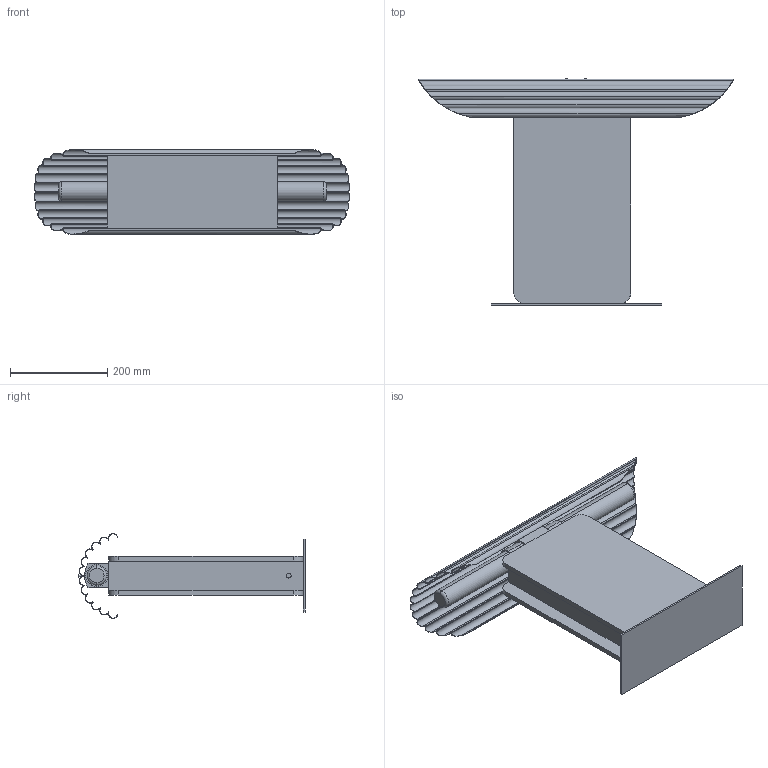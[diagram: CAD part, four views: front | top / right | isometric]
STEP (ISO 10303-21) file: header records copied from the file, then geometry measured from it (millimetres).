
FILE_DESCRIPTION (( 'STEP AP214' ), '1' );
FILE_NAME ('HOLD_S1326.STEP', '2024-09-18T08:31:00', ( '' ), ( '' ), 'SwSTEP 2.0', 'SolidWorks 2018', '' );
FILE_SCHEMA (( 'AUTOMOTIVE_DESIGN' ));
Length unit declared in the file: millimetre
Products named in the file (1): HOLD_S1326
Bounding box: 649.99 x 465.93 x 174.37 mm (x, y, z)
Volume: 7755090 mm3; surface area: 1292362.7 mm2
Topology: 11 solids, 11 shells, 161 faces, 397 edges, 262 vertices
Faces by surface type: plane 83, cylinder 74, torus 4
Entity records: 9018 total; most frequent: CARTESIAN_POINT 3569, ORIENTED_EDGE 794, DIRECTION 653, EDGE_CURVE 397, VERTEX_POINT 262, AXIS2_PLACEMENT_3D 238, LINE 177, VECTOR 177
